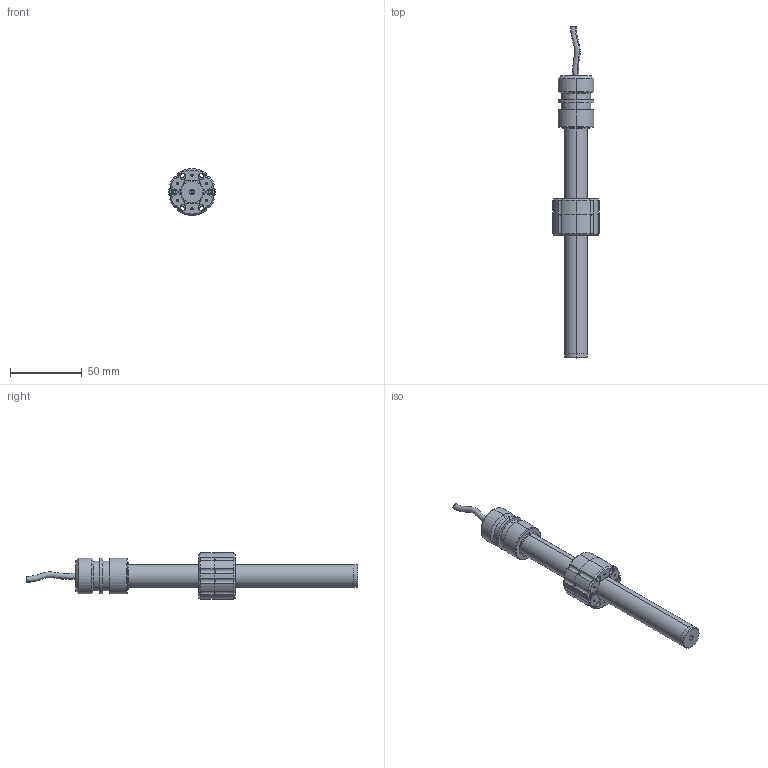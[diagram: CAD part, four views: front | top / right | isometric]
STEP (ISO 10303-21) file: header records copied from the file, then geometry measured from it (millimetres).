
FILE_DESCRIPTION (( 'STEP AP203' ), '1' );
FILE_NAME ('PMI-12-F-0100-X V2.STEP', '2010-11-10T14:25:57', ( 'loda' ), ( '' ), 'SwSTEP 2.0', 'SolidWorks 2010', '' );
FILE_SCHEMA (( 'CONFIG_CONTROL_DESIGN' ));
Length unit declared in the file: millimetre
Products named in the file (11): PUN011X; MIM803X_MIM803; CUS853X; CUS852X; PMI-12-F-0100-X V2; TUB861X; TAP002X; FLA005-FX; PMEV2 cavoX; PCUR032X; INS003X
Assembly tree (12 placements, depth 3):
  PMI-12-F-0100-X V2
    TAP002X
    PUN011X
    PCUR032X
      CUS853X
      MIM803X_MIM803  x2
      INS003X  x2
      CUS852X
    TUB861X
    FLA005-FX
    PMEV2 cavoX
Bounding box: 32.78 x 231.7 x 32.8 mm (x, y, z)
Volume: 38642.7 mm3; surface area: 35336.9 mm2
Topology: 11 solids, 11 shells, 895 faces, 2296 edges, 1435 vertices
Faces by surface type: cone 414, cylinder 386, plane 81, torus 8, sphere 4, bspline 2
Entity records: 20381 total; most frequent: CARTESIAN_POINT 3793, DIRECTION 3660, ORIENTED_EDGE 3032, AXIS2_PLACEMENT_3D 1561, EDGE_CURVE 1516, VERTEX_POINT 958, CIRCLE 944, EDGE_LOOP 690
